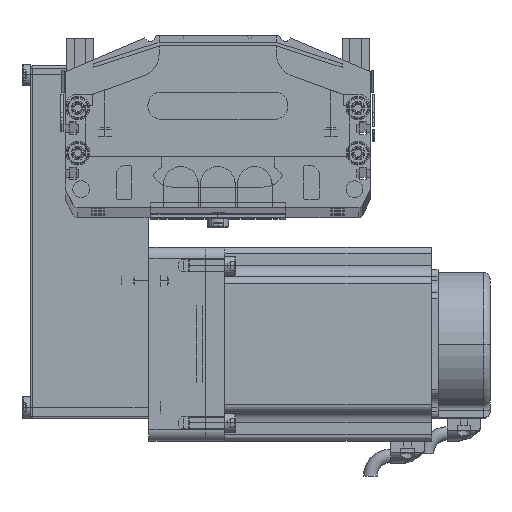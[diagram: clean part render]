
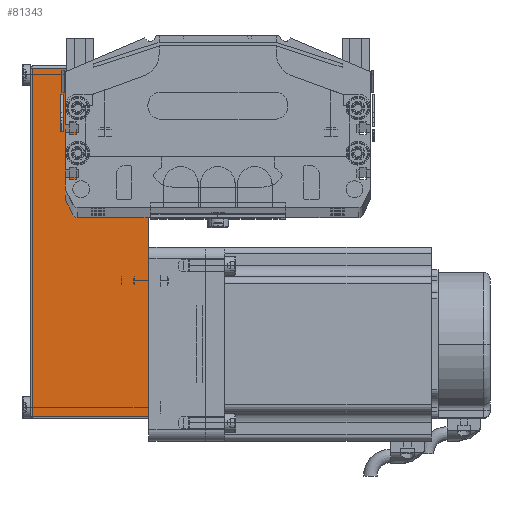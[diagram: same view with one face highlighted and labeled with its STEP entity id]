
A CAD part, top view. The second image highlights one B-rep face of the part: STEP entity #81343.
In plain terms, the highlighted planar face has unit normal (0, 0, 1) as drawn and (0, -1, 0) by its records, which use the part's own axes.
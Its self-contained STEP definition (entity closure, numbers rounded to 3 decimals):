
#24878 = CARTESIAN_POINT ( 'NONE',  ( -123.2, -40., 0. ) ) ;
#24882 = CARTESIAN_POINT ( 'NONE',  ( 31., -40., 0. ) ) ;
#30763 = DIRECTION ( 'NONE',  ( 1., 0., 0. ) ) ;
#30765 = VECTOR ( 'NONE', #30763, 1000. ) ;
#30766 = CARTESIAN_POINT ( 'NONE',  ( 32., -40., 0. ) ) ;
#30767 = LINE ( 'NONE', #30766, #30765 ) ;
#30787 = DIRECTION ( 'NONE',  ( 0., 0., 1. ) ) ;
#30788 = VECTOR ( 'NONE', #30787, 1000. ) ;
#30800 = CARTESIAN_POINT ( 'NONE',  ( 31., -40., 52.5 ) ) ;
#30801 = LINE ( 'NONE', #30800, #30788 ) ;
#30856 = FACE_OUTER_BOUND ( 'NONE', #81463, .T. ) ;
#30923 = PLANE ( 'NONE',  #30925 ) ;
#30925 = AXIS2_PLACEMENT_3D ( 'NONE', #30959, #30957, #30945 ) ;
#30945 = DIRECTION ( 'NONE',  ( -1., 0., 0. ) ) ;
#30957 = DIRECTION ( 'NONE',  ( 0., 1., 0. ) ) ;
#30959 = CARTESIAN_POINT ( 'NONE',  ( 32., -40., 52.5 ) ) ;
#42638 = CARTESIAN_POINT ( 'NONE',  ( 31., -40., 51.5 ) ) ;
#42727 = DIRECTION ( 'NONE',  ( -1., 0., 0. ) ) ;
#42735 = VECTOR ( 'NONE', #42727, 1000. ) ;
#42737 = CARTESIAN_POINT ( 'NONE',  ( 32., -40., 51.5 ) ) ;
#42738 = LINE ( 'NONE', #42737, #42735 ) ;
#42761 = CARTESIAN_POINT ( 'NONE',  ( -123.2, -40., 51.5 ) ) ;
#59851 = DIRECTION ( 'NONE',  ( 0., 0., -1. ) ) ;
#59853 = VECTOR ( 'NONE', #59851, 1000. ) ;
#59855 = CARTESIAN_POINT ( 'NONE',  ( -123.2, -40., 52.5 ) ) ;
#59857 = LINE ( 'NONE', #59855, #59853 ) ;
#81067 = VERTEX_POINT ( 'NONE', #24882 ) ;
#81071 = VERTEX_POINT ( 'NONE', #24878 ) ;
#81248 = EDGE_CURVE ( 'NONE', #81071, #81067, #30767, .T. ) ;
#81288 = EDGE_CURVE ( 'NONE', #81067, #81482, #30801, .T. ) ;
#81289 = ORIENTED_EDGE ( 'NONE', *, *, #81476, .T. ) ;
#81343 = ADVANCED_FACE ( 'NONE', ( #30856 ), #30923, .F. ) ;
#81463 = EDGE_LOOP ( 'NONE', ( #81481, #81475, #81289, #81483 ) ) ;
#81473 = VERTEX_POINT ( 'NONE', #42761 ) ;
#81475 = ORIENTED_EDGE ( 'NONE', *, *, #81288, .T. ) ;
#81476 = EDGE_CURVE ( 'NONE', #81482, #81473, #42738, .T. ) ;
#81481 = ORIENTED_EDGE ( 'NONE', *, *, #81248, .T. ) ;
#81482 = VERTEX_POINT ( 'NONE', #42638 ) ;
#81483 = ORIENTED_EDGE ( 'NONE', *, *, #81614, .T. ) ;
#81614 = EDGE_CURVE ( 'NONE', #81473, #81071, #59857, .T. ) ;
